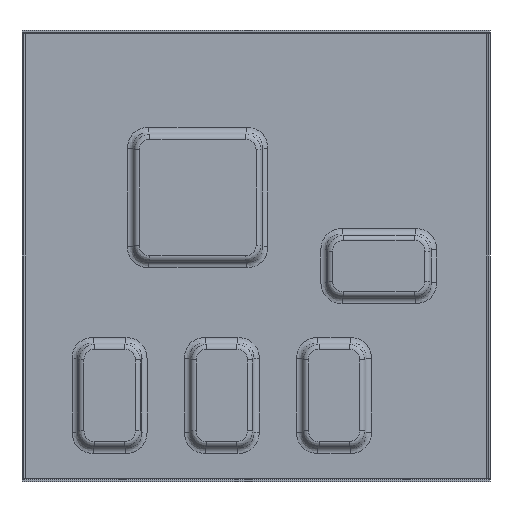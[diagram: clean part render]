
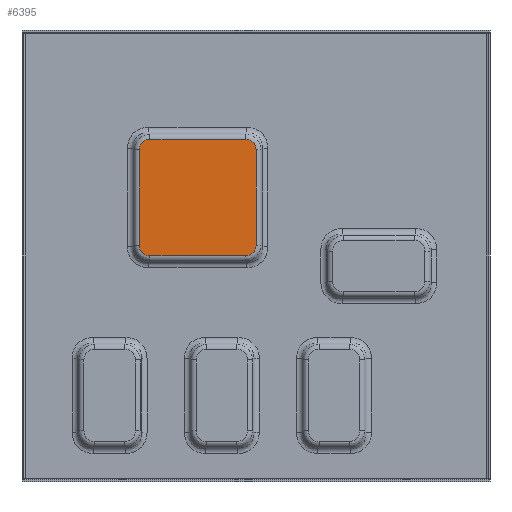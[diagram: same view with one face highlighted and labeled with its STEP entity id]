
A CAD part, front view. The second image highlights one B-rep face of the part: STEP entity #6395.
In plain terms, the highlighted planar face has unit normal (0, -1, 0).
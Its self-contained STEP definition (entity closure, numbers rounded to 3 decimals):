
#1274=CARTESIAN_POINT('',(-1.295,2.2,0.011));
#1275=CARTESIAN_POINT('',(-1.189,2.2,0.011));
#1276=CARTESIAN_POINT('',(-0.988,2.2,0.032));
#1277=CARTESIAN_POINT('',(-0.722,2.2,0.116));
#1278=CARTESIAN_POINT('',(-0.486,2.2,0.251));
#1279=CARTESIAN_POINT('',(-0.291,2.2,0.432));
#1280=CARTESIAN_POINT('',(-0.132,2.2,0.666));
#1281=CARTESIAN_POINT('',(-0.023,2.2,0.961));
#1282=CARTESIAN_POINT('',(0.004,2.2,1.188));
#1283=CARTESIAN_POINT('',(0.004,2.2,1.31));
#1285=DIRECTION('',(1.,0.,0.));
#1286=VECTOR('',#1285,11.67);
#1287=CARTESIAN_POINT('',(-12.965,2.2,0.011));
#1288=LINE('',#1287,#1286);
#1289=CARTESIAN_POINT('',(-14.264,2.2,1.31));
#1290=CARTESIAN_POINT('',(-14.264,2.2,1.204));
#1291=CARTESIAN_POINT('',(-14.243,2.2,1.003));
#1292=CARTESIAN_POINT('',(-14.159,2.2,0.737));
#1293=CARTESIAN_POINT('',(-14.024,2.2,0.501));
#1294=CARTESIAN_POINT('',(-13.843,2.2,0.306));
#1295=CARTESIAN_POINT('',(-13.609,2.2,0.147));
#1296=CARTESIAN_POINT('',(-13.314,2.2,0.038));
#1297=CARTESIAN_POINT('',(-13.087,2.2,0.011));
#1298=CARTESIAN_POINT('',(-12.965,2.2,0.011));
#1300=DIRECTION('',(0.,0.,-1.));
#1301=VECTOR('',#1300,11.67);
#1302=CARTESIAN_POINT('',(-14.264,2.2,12.98));
#1303=LINE('',#1302,#1301);
#1304=CARTESIAN_POINT('',(-12.965,2.2,14.279));
#1305=CARTESIAN_POINT('',(-13.071,2.2,14.279));
#1306=CARTESIAN_POINT('',(-13.272,2.2,14.258));
#1307=CARTESIAN_POINT('',(-13.538,2.2,14.174));
#1308=CARTESIAN_POINT('',(-13.774,2.2,14.039));
#1309=CARTESIAN_POINT('',(-13.969,2.2,13.858));
#1310=CARTESIAN_POINT('',(-14.128,2.2,13.624));
#1311=CARTESIAN_POINT('',(-14.237,2.2,13.329));
#1312=CARTESIAN_POINT('',(-14.264,2.2,13.102));
#1313=CARTESIAN_POINT('',(-14.264,2.2,12.98));
#1315=DIRECTION('',(-1.,0.,0.));
#1316=VECTOR('',#1315,11.67);
#1317=CARTESIAN_POINT('',(-1.295,2.2,14.279));
#1318=LINE('',#1317,#1316);
#1319=CARTESIAN_POINT('',(0.004,2.2,12.98));
#1320=CARTESIAN_POINT('',(0.004,2.2,13.086));
#1321=CARTESIAN_POINT('',(-0.017,2.2,13.287));
#1322=CARTESIAN_POINT('',(-0.101,2.2,13.553));
#1323=CARTESIAN_POINT('',(-0.236,2.2,13.789));
#1324=CARTESIAN_POINT('',(-0.417,2.2,13.984));
#1325=CARTESIAN_POINT('',(-0.651,2.2,14.143));
#1326=CARTESIAN_POINT('',(-0.946,2.2,14.252));
#1327=CARTESIAN_POINT('',(-1.173,2.2,14.279));
#1328=CARTESIAN_POINT('',(-1.295,2.2,14.279));
#1330=DIRECTION('',(0.,0.,1.));
#1331=VECTOR('',#1330,11.67);
#1332=CARTESIAN_POINT('',(0.004,2.2,1.31));
#1333=LINE('',#1332,#1331);
#4629=VERTEX_POINT('',#1274);
#4630=VERTEX_POINT('',#1283);
#4633=CARTESIAN_POINT('',(0.004,2.2,12.98));
#4634=VERTEX_POINT('',#4633);
#4637=VERTEX_POINT('',#1328);
#4639=CARTESIAN_POINT('',(-12.965,2.2,14.279));
#4640=VERTEX_POINT('',#4639);
#4643=VERTEX_POINT('',#1313);
#4645=CARTESIAN_POINT('',(-14.264,2.2,1.31));
#4646=VERTEX_POINT('',#4645);
#4649=VERTEX_POINT('',#1298);
#6372=CARTESIAN_POINT('',(100.,2.2,-43.025));
#6373=DIRECTION('',(0.,1.,0.));
#6374=DIRECTION('',(1.,0.,0.));
#6375=AXIS2_PLACEMENT_3D('',#6372,#6373,#6374);
#6376=PLANE('',#6375);
#6378=ORIENTED_EDGE('',*,*,#6377,.F.);
#6380=ORIENTED_EDGE('',*,*,#6379,.F.);
#6382=ORIENTED_EDGE('',*,*,#6381,.F.);
#6384=ORIENTED_EDGE('',*,*,#6383,.F.);
#6386=ORIENTED_EDGE('',*,*,#6385,.F.);
#6388=ORIENTED_EDGE('',*,*,#6387,.F.);
#6390=ORIENTED_EDGE('',*,*,#6389,.F.);
#6392=ORIENTED_EDGE('',*,*,#6391,.F.);
#6393=EDGE_LOOP('',(#6378,#6380,#6382,#6384,#6386,#6388,#6390,#6392));
#6394=FACE_OUTER_BOUND('',#6393,.F.);
#6395=ADVANCED_FACE('',(#6394),#6376,.F.);
#1284=B_SPLINE_CURVE_WITH_KNOTS('',3,(#1274,#1275,#1276,#1277,#1278,#1279,#1280,
#1281,#1282,#1283),.UNSPECIFIED.,.F.,.F.,(4,1,1,1,1,1,1,4),(0.,
0.143,0.286,0.429,0.571,
0.714,0.857,1.),.UNSPECIFIED.);
#1299=B_SPLINE_CURVE_WITH_KNOTS('',3,(#1289,#1290,#1291,#1292,#1293,#1294,#1295,
#1296,#1297,#1298),.UNSPECIFIED.,.F.,.F.,(4,1,1,1,1,1,1,4),(0.,
0.143,0.286,0.429,0.571,
0.714,0.857,1.),.UNSPECIFIED.);
#1314=B_SPLINE_CURVE_WITH_KNOTS('',3,(#1304,#1305,#1306,#1307,#1308,#1309,#1310,
#1311,#1312,#1313),.UNSPECIFIED.,.F.,.F.,(4,1,1,1,1,1,1,4),(0.,
0.143,0.286,0.429,0.571,
0.714,0.857,1.),.UNSPECIFIED.);
#1329=B_SPLINE_CURVE_WITH_KNOTS('',3,(#1319,#1320,#1321,#1322,#1323,#1324,#1325,
#1326,#1327,#1328),.UNSPECIFIED.,.F.,.F.,(4,1,1,1,1,1,1,4),(0.,
0.143,0.286,0.429,0.571,
0.714,0.857,1.),.UNSPECIFIED.);
#6377=EDGE_CURVE('',#4629,#4630,#1284,.T.);
#6379=EDGE_CURVE('',#4649,#4629,#1288,.T.);
#6381=EDGE_CURVE('',#4646,#4649,#1299,.T.);
#6383=EDGE_CURVE('',#4643,#4646,#1303,.T.);
#6385=EDGE_CURVE('',#4640,#4643,#1314,.T.);
#6387=EDGE_CURVE('',#4637,#4640,#1318,.T.);
#6389=EDGE_CURVE('',#4634,#4637,#1329,.T.);
#6391=EDGE_CURVE('',#4630,#4634,#1333,.T.);
